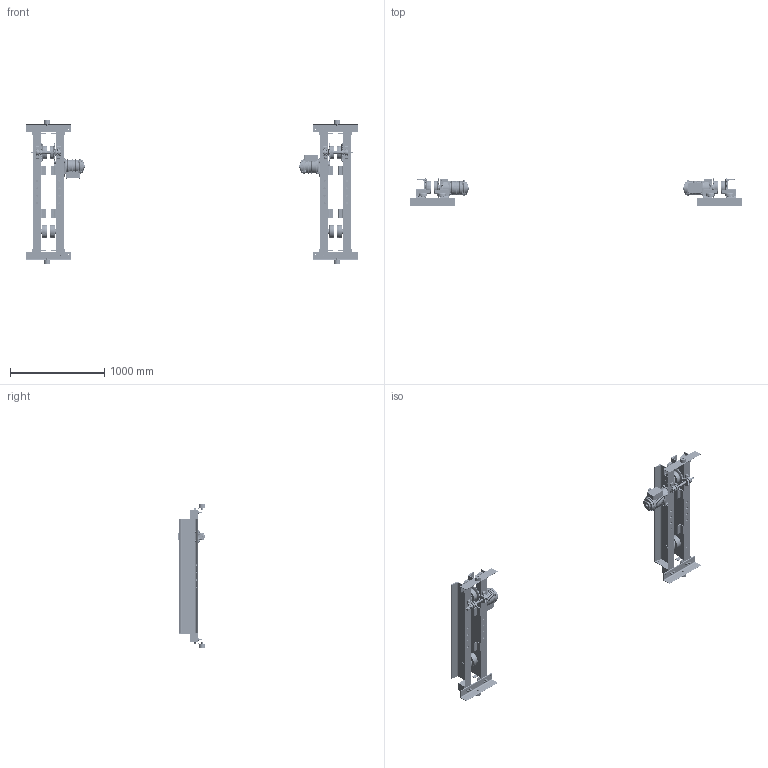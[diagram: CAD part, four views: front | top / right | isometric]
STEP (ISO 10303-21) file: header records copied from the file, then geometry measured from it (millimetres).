
FILE_DESCRIPTION (( 'STEP AP214' ), '1' );
FILE_NAME ('UMS-3-0535.STEP', '2026-08-11T17:21:01', ( '' ), ( '' ), 'SwSTEP 2.0', 'SolidWorks 2026', '' );
FILE_SCHEMA (( 'AUTOMOTIVE_DESIGN' ));
Length unit declared in the file: inch
Products named in the file (86): 9012515_9012515; N6QL210115; G1JE040S9401; 9093101_9093101; 6257001; 9091273_9091273; 6232403; G1JE040S9503; 6257002_A308-308-006; 6232304; 9093424_9093424; 9012707_9012707; 62338XXU_6233802U; G1JE025S9610; 9093329_9093329; N6QL210114; N6QO3101108_N6QO3101108; N6QL210207; 9091250_9091250; 6257003; 6233203; N6QO310E9108_N6QO3101108 DOMESTIC; 9093427_9093427; G1JE040S9701; 62342XXU_6234202U; 62343XXU_6234302U; 9012709_Rectangular section spring washer BS 4464 - 16 (Type B); 9047140_9047140; 6234503; 9047125_B27.7M - 3AM1-23; 62341XXU_6234102U; 9012519_9012519; UMS-3-0535; G1JE040S9301; 62587; N6QL520113; 9043411; N6QL210116; 6232303; 9012712_9012712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
Assembly tree (383 placements, depth 5):
  UMS-3-0535
    62341XXU_6234102U
      62338XXU_6233802U
        MC08-021.4_48
        6257003
          6257002_A308-308-006
          6257001
        6257003
          6257002_A308-308-006
          6257001
      6232303  x2
      6232304  x2
      5204405_5204405  x2
      6233203  x2
      6257005
    62342XXU_6234202U  x2
      62339XXU_6233902U
        MC08-021.4_48
        6257003
          6257002_A308-308-006
          6257001
        6257003
          6257002_A308-308-006
          6257001
      6232303
      6232304
      5204405_5204405
      6233203
    62343XXU_6234302U
      62340XXU_6234002U
        MC08-021.4_48
        6257003
          6257002_A308-308-006
          6257001
        6257003
          6257002_A308-308-006
          6257001
      6232303  x2
      6232304  x2
      5204405_5204405  x2
      6233203  x2
      6257005
    6234503  x4
      6232603
      9047268_B27.7M - 3BM1-68
      9000508
    6232403  x8
    9047140_9047140  x8
    N6QL5301101  x4
      N6QL530E9101_Domestic
      9047268_B27.7M - 3BM1-68
      9000508
    6232404  x8
    9047125_B27.7M - 3AM1-23  x8
    9012515_9012515  x15
    9093433_9093433  x30
    9093146_9093146  x7
    N6QL210207  x4
    9012514_9012514  x12
    9093101_9093101  x4
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Bounding box: 3519.98 x 302.93 x 1525.81 mm (x, y, z)
Volume: 38732297.9 mm3; surface area: 8273917.5 mm2
Topology: 406 solids, 502 shells, 26813 faces, 69828 edges, 45240 vertices
Faces by surface type: plane 13283, cylinder 7280, cone 3266, bspline 1914, torus 858, sphere 212
Entity records: 194692 total; most frequent: CARTESIAN_POINT 62038, ORIENTED_EDGE 26978, DIRECTION 26170, EDGE_CURVE 13493, AXIS2_PLACEMENT_3D 10127, VERTEX_POINT 8646, VECTOR 5916, LINE 5916
